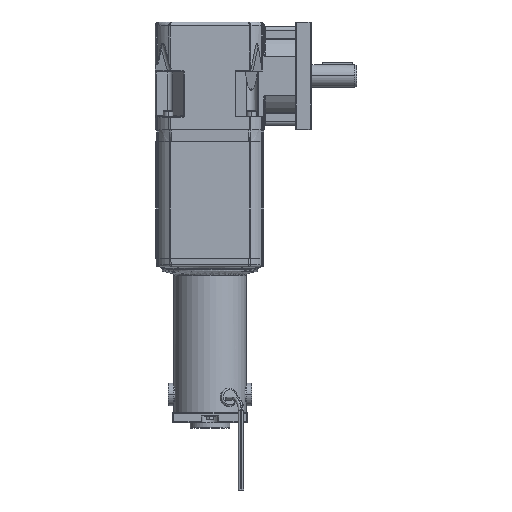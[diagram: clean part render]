
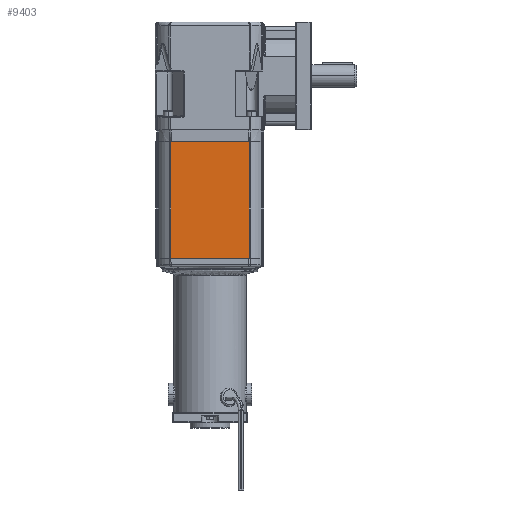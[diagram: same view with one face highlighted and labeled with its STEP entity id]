
A CAD part, front view. The second image highlights one B-rep face of the part: STEP entity #9403.
In plain terms, the highlighted planar face has unit normal (0, -1, 0).
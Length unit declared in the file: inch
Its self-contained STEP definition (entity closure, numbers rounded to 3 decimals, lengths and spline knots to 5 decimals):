
#41 = LINE ( 'NONE', #31407, #27814 ) ;
#95 = EDGE_CURVE ( 'NONE', #40339, #42321, #41, .T. ) ;
#814 = EDGE_CURVE ( 'NONE', #25408, #23962, #43112, .T. ) ;
#1266 = EDGE_CURVE ( 'NONE', #23962, #40339, #7841, .T. ) ;
#1693 = CARTESIAN_POINT ( 'NONE',  ( -1.325, -1.7765, 0. ) ) ;
#2150 = ORIENTED_EDGE ( 'NONE', *, *, #814, .T. ) ;
#3530 = CARTESIAN_POINT ( 'NONE',  ( -1.295, -1.7765, -3.842 ) ) ;
#7841 = LINE ( 'NONE', #29665, #45986 ) ;
#9403 = ADVANCED_FACE ( 'NONE', ( #48162 ), #18990, .T. ) ;
#9546 = DIRECTION ( 'NONE',  ( 1., 0., 0. ) ) ;
#12771 = VECTOR ( 'NONE', #20047, 39.37008 ) ;
#14972 = EDGE_LOOP ( 'NONE', ( #2150, #43613, #23546, #22123 ) ) ;
#14996 = CARTESIAN_POINT ( 'NONE',  ( 1.295, -1.7765, -3.842 ) ) ;
#18136 = DIRECTION ( 'NONE',  ( 0., 0., -1. ) ) ;
#18198 = DIRECTION ( 'NONE',  ( 0., -1., 0. ) ) ;
#18350 = CARTESIAN_POINT ( 'NONE',  ( -1.325, -1.7765, -3.995 ) ) ;
#18990 = PLANE ( 'NONE',  #21527 ) ;
#20047 = DIRECTION ( 'NONE',  ( 0., 0., -1. ) ) ;
#21527 = AXIS2_PLACEMENT_3D ( 'NONE', #18350, #18198, #18136 ) ;
#22123 = ORIENTED_EDGE ( 'NONE', *, *, #46320, .F. ) ;
#23546 = ORIENTED_EDGE ( 'NONE', *, *, #95, .T. ) ;
#23657 = CARTESIAN_POINT ( 'NONE',  ( -1.295, -1.7765, 0. ) ) ;
#23962 = VERTEX_POINT ( 'NONE', #3530 ) ;
#25408 = VERTEX_POINT ( 'NONE', #23657 ) ;
#25469 = CARTESIAN_POINT ( 'NONE',  ( 1.295, -1.7765, 0. ) ) ;
#25970 = LINE ( 'NONE', #1693, #44239 ) ;
#27814 = VECTOR ( 'NONE', #39213, 39.37008 ) ;
#29490 = DIRECTION ( 'NONE',  ( 1., 0., 0. ) ) ;
#29665 = CARTESIAN_POINT ( 'NONE',  ( 1.295, -1.7765, -3.842 ) ) ;
#31407 = CARTESIAN_POINT ( 'NONE',  ( 1.295, -1.7765, -3.995 ) ) ;
#37872 = CARTESIAN_POINT ( 'NONE',  ( -1.295, -1.7765, -3.995 ) ) ;
#39213 = DIRECTION ( 'NONE',  ( 0., 0., 1. ) ) ;
#40339 = VERTEX_POINT ( 'NONE', #14996 ) ;
#42321 = VERTEX_POINT ( 'NONE', #25469 ) ;
#43112 = LINE ( 'NONE', #37872, #12771 ) ;
#43613 = ORIENTED_EDGE ( 'NONE', *, *, #1266, .T. ) ;
#44239 = VECTOR ( 'NONE', #9546, 39.37008 ) ;
#45986 = VECTOR ( 'NONE', #29490, 39.37008 ) ;
#46320 = EDGE_CURVE ( 'NONE', #25408, #42321, #25970, .T. ) ;
#48162 = FACE_OUTER_BOUND ( 'NONE', #14972, .T. ) ;
